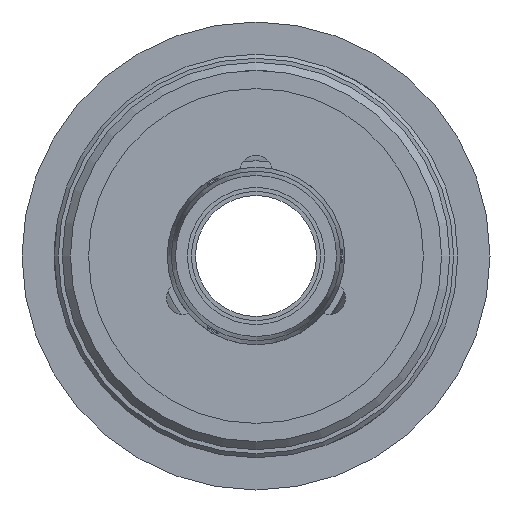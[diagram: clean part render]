
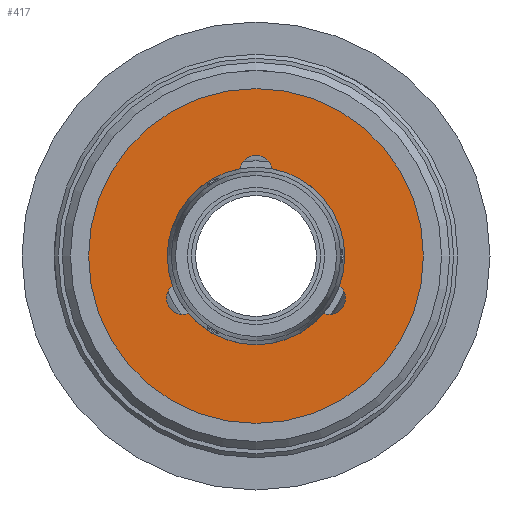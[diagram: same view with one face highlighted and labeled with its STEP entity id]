
A CAD part, front view. The second image highlights one B-rep face of the part: STEP entity #417.
In plain terms, the highlighted planar face has unit normal (0, -1, 0).
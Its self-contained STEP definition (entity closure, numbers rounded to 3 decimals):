
#199=PLANE('',#2469);
#277=FACE_OUTER_BOUND('',#1136,.T.);
#417=ADVANCED_FACE('',(#277,#797),#199,.F.);
#797=FACE_BOUND('',#1137,.T.);
#1136=EDGE_LOOP('',(#1544));
#1137=EDGE_LOOP('',(#1545,#1546,#1547,#1548,#1549,#1550));
#1544=ORIENTED_EDGE('',*,*,#2030,.F.);
#1545=ORIENTED_EDGE('',*,*,#2028,.T.);
#1546=ORIENTED_EDGE('',*,*,#2031,.T.);
#1547=ORIENTED_EDGE('',*,*,#2002,.T.);
#1548=ORIENTED_EDGE('',*,*,#2032,.T.);
#1549=ORIENTED_EDGE('',*,*,#2006,.T.);
#1550=ORIENTED_EDGE('',*,*,#2033,.T.);
#1797=VERTEX_POINT('',#4964);
#1798=VERTEX_POINT('',#4965);
#1801=VERTEX_POINT('',#4973);
#1802=VERTEX_POINT('',#4974);
#1820=VERTEX_POINT('',#5195);
#1821=VERTEX_POINT('',#5197);
#1822=VERTEX_POINT('',#5201);
#2002=EDGE_CURVE('',#1797,#1798,#2179,.T.);
#2006=EDGE_CURVE('',#1801,#1802,#2181,.T.);
#2028=EDGE_CURVE('',#1821,#1820,#2197,.T.);
#2030=EDGE_CURVE('',#1822,#1822,#2198,.T.);
#2031=EDGE_CURVE('',#1820,#1797,#2199,.T.);
#2032=EDGE_CURVE('',#1798,#1801,#2200,.T.);
#2033=EDGE_CURVE('',#1802,#1821,#2201,.T.);
#2179=CIRCLE('',#2433,11.);
#2181=CIRCLE('',#2436,11.);
#2197=CIRCLE('',#2463,11.);
#2198=CIRCLE('',#2465,21.5);
#2199=CIRCLE('',#2466,2.);
#2200=CIRCLE('',#2467,2.);
#2201=CIRCLE('',#2468,2.);
#2433=AXIS2_PLACEMENT_3D('',#4963,#2954,#2955);
#2436=AXIS2_PLACEMENT_3D('',#4972,#2962,#2963);
#2463=AXIS2_PLACEMENT_3D('',#5196,#3019,#3020);
#2465=AXIS2_PLACEMENT_3D('',#5200,#3024,#3025);
#2466=AXIS2_PLACEMENT_3D('',#5202,#3026,#3027);
#2467=AXIS2_PLACEMENT_3D('',#5203,#3028,#3029);
#2468=AXIS2_PLACEMENT_3D('',#5204,#3030,#3031);
#2469=AXIS2_PLACEMENT_3D('',#5205,#3032,#3033);
#2954=DIRECTION('',(0.,1.,0.));
#2955=DIRECTION('',(0.,0.,1.));
#2962=DIRECTION('',(0.,1.,0.));
#2963=DIRECTION('',(0.,0.,1.));
#3019=DIRECTION('',(0.,1.,0.));
#3020=DIRECTION('',(0.,0.,1.));
#3024=DIRECTION('',(0.,1.,0.));
#3025=DIRECTION('',(0.,0.,1.));
#3026=DIRECTION('',(0.,1.,0.));
#3027=DIRECTION('',(0.,0.,1.));
#3028=DIRECTION('',(0.,1.,0.));
#3029=DIRECTION('',(0.,0.,1.));
#3030=DIRECTION('',(0.,1.,0.));
#3031=DIRECTION('',(0.,0.,1.));
#3032=DIRECTION('',(0.,1.,0.));
#3033=DIRECTION('',(0.,0.,1.));
#4963=CARTESIAN_POINT('',(62.702,34.059,120.));
#4964=CARTESIAN_POINT('',(52.343,34.059,116.299));
#4965=CARTESIAN_POINT('',(60.728,34.059,130.821));
#4972=CARTESIAN_POINT('',(62.702,34.059,120.));
#4973=CARTESIAN_POINT('',(64.676,34.059,130.821));
#4974=CARTESIAN_POINT('',(73.061,34.059,116.299));
#5195=CARTESIAN_POINT('',(54.317,34.059,112.88));
#5196=CARTESIAN_POINT('',(62.702,34.059,120.));
#5197=CARTESIAN_POINT('',(71.087,34.059,112.88));
#5200=CARTESIAN_POINT('',(62.702,34.059,120.));
#5201=CARTESIAN_POINT('',(62.702,34.059,141.5));
#5202=CARTESIAN_POINT('',(53.609,34.059,114.75));
#5203=CARTESIAN_POINT('',(62.702,34.059,130.5));
#5204=CARTESIAN_POINT('',(71.795,34.059,114.75));
#5205=CARTESIAN_POINT('',(73.702,34.059,120.));
